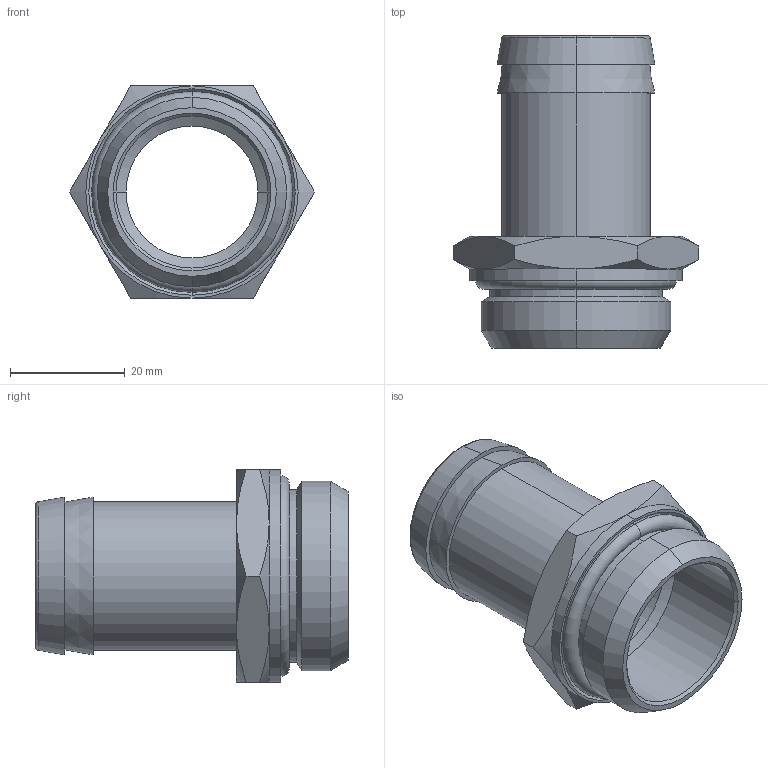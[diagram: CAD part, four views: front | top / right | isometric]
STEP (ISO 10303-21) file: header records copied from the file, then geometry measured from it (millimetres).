
FILE_DESCRIPTION (( 'STEP AP214' ), '1' );
FILE_NAME ('0304400019.STEP', '2015-08-07T12:24:32', ( '' ), ( '' ), 'SwSTEP 2.0', 'SolidWorks 2015', '' );
FILE_SCHEMA (( 'AUTOMOTIVE_DESIGN' ));
Length unit declared in the file: millimetre
Products named in the file (1): 0304400019
Bounding box: 42.72 x 54.5 x 37 mm (x, y, z)
Surface area: 11644.1 mm2 (no closed solid volume)
Topology: 0 solids, 2 shells, 56 faces, 118 edges, 68 vertices
Faces by surface type: cone 26, cylinder 12, plane 12, torus 6
Entity records: 2248 total; most frequent: CARTESIAN_POINT 411, DIRECTION 270, ORIENTED_EDGE 232, AXIS2_PLACEMENT_3D 119, EDGE_CURVE 118, VERTEX_POINT 68, EDGE_LOOP 62, CIRCLE 62
